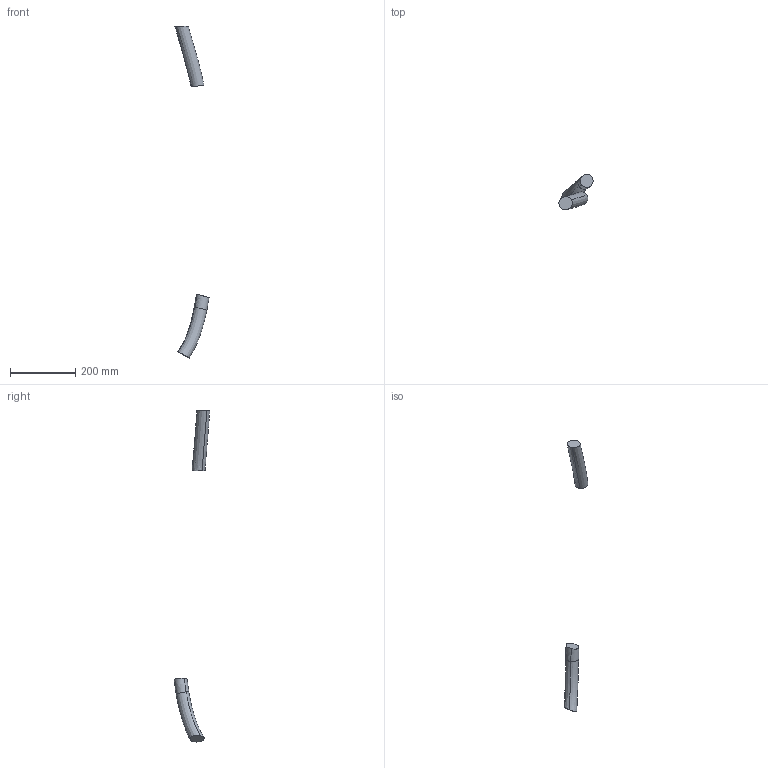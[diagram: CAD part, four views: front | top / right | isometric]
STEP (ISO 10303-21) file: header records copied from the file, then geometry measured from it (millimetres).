
FILE_DESCRIPTION (( 'STEP AP214' ), '1' );
FILE_NAME ('IRB6720-LID-MH_215kg-250_OC_00_LINK02_CABLE.step', '2026-05-26T07:16:09', ( '' ), ( '' ), 'SwSTEP 2.0', 'SolidWorks 2024', '' );
FILE_SCHEMA (( 'AUTOMOTIVE_DESIGN' ));
Length unit declared in the file: millimetre
Products named in the file (1): IRB6720-LID-MH_215kg-250_OC_00_LINK02_CABLE
Bounding box: 104.29 x 109.18 x 1014.51 mm (x, y, z)
Volume: 478227.9 mm3; surface area: 53396.5 mm2
Topology: 2 solids, 2 shells, 10 faces, 16 edges, 10 vertices
Faces by surface type: bspline 6, plane 4
Entity records: 71418 total; most frequent: CARTESIAN_POINT 71249, ORIENTED_EDGE 32, EDGE_CURVE 16, B_SPLINE_CURVE_WITH_KNOTS 16, DIRECTION 10, VERTEX_POINT 10, EDGE_LOOP 10, ADVANCED_FACE 10
